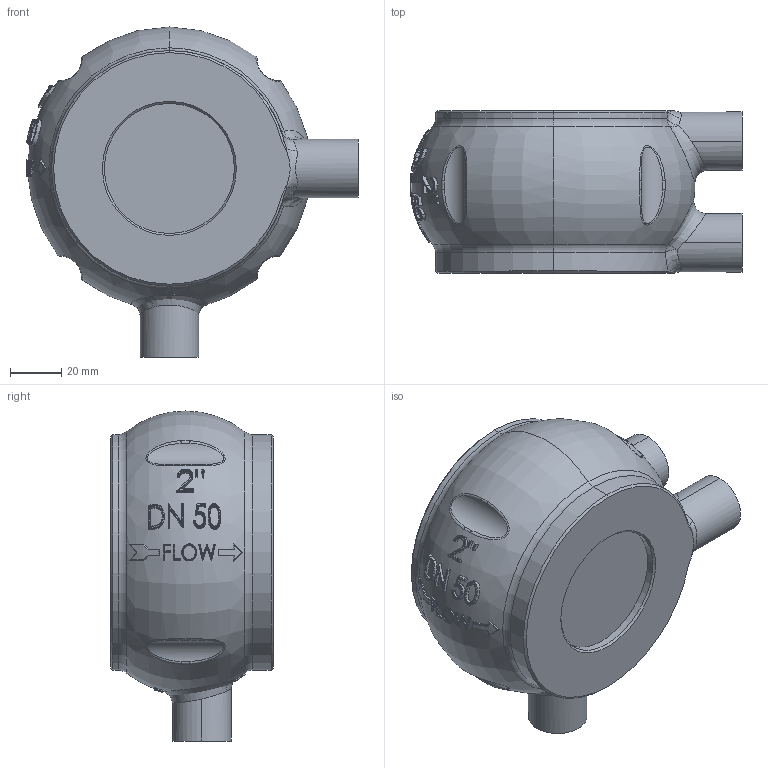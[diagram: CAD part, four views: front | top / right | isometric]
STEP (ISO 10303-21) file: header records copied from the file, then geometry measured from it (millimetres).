
FILE_DESCRIPTION (( 'STEP AP203' ), '1' );
FILE_NAME ('2in 100-42 Roll Seal Main Valve, 150WB.STEP', '2023-03-31T17:33:11', ( '' ), ( '' ), 'SwSTEP 2.0', 'SolidWorks 2022', '' );
FILE_SCHEMA (( 'CONFIG_CONTROL_DESIGN' ));
Length unit declared in the file: inch
Products named in the file (1): 2in 100-42 Roll Seal Main Valve, 150WB
Bounding box: 129.65 x 63.5 x 128.91 mm (x, y, z)
Volume: 510965.4 mm3; surface area: 48539.2 mm2
Topology: 1 solids, 1 shells, 569 faces, 1469 edges, 926 vertices
Faces by surface type: bspline 187, plane 182, cylinder 87, torus 77, cone 26, sphere 10
Entity records: 29237 total; most frequent: CARTESIAN_POINT 17090, ORIENTED_EDGE 2922, DIRECTION 1933, EDGE_CURVE 1461, VERTEX_POINT 926, AXIS2_PLACEMENT_3D 786, B_SPLINE_CURVE_WITH_KNOTS 697, EDGE_LOOP 601
